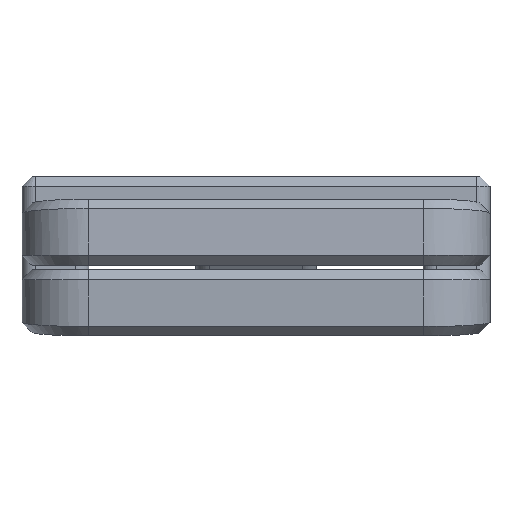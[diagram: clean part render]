
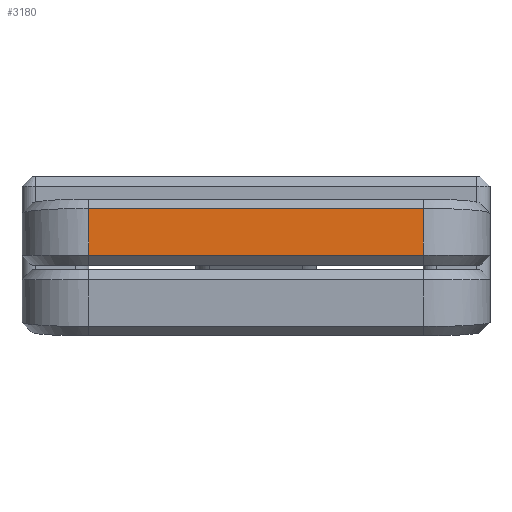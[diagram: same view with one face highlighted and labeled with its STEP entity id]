
A CAD part, front view. The second image highlights one B-rep face of the part: STEP entity #3180.
In plain terms, the highlighted planar face has unit normal (0, -0.999, 0.037).
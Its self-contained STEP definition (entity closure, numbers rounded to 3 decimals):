
#309=PLANE('',#3404);
#492=FACE_OUTER_BOUND('',#680,.T.);
#680=EDGE_LOOP('',(#2972,#2973,#2974,#2975));
#918=LINE('',#5545,#1200);
#975=LINE('',#6074,#1257);
#999=LINE('',#6219,#1281);
#1002=LINE('',#6224,#1284);
#1200=VECTOR('',#3859,10.);
#1257=VECTOR('',#3978,10.);
#1281=VECTOR('',#4046,10.);
#1284=VECTOR('',#4053,10.);
#1507=VERTEX_POINT('',#5533);
#1509=VERTEX_POINT('',#5543);
#1551=VERTEX_POINT('',#6056);
#1553=VERTEX_POINT('',#6070);
#1901=EDGE_CURVE('',#1509,#1507,#918,.T.);
#1986=EDGE_CURVE('',#1551,#1553,#975,.T.);
#2025=EDGE_CURVE('',#1507,#1551,#999,.T.);
#2028=EDGE_CURVE('',#1553,#1509,#1002,.T.);
#2972=ORIENTED_EDGE('',*,*,#1901,.F.);
#2973=ORIENTED_EDGE('',*,*,#2028,.F.);
#2974=ORIENTED_EDGE('',*,*,#1986,.F.);
#2975=ORIENTED_EDGE('',*,*,#2025,.F.);
#3180=ADVANCED_FACE('',(#492),#309,.T.);
#3404=AXIS2_PLACEMENT_3D('',#6266,#4105,#4106);
#3859=DIRECTION('',(1.,0.,0.));
#3978=DIRECTION('',(-1.,0.,0.));
#4046=DIRECTION('',(0.,-0.037,-0.999));
#4053=DIRECTION('',(0.,0.037,0.999));
#4105=DIRECTION('center_axis',(0.,-0.999,0.037));
#4106=DIRECTION('ref_axis',(0.,-0.037,-0.999));
#5533=CARTESIAN_POINT('',(12.5,-23.591,4.582));
#5543=CARTESIAN_POINT('',(-12.5,-23.591,4.582));
#5545=CARTESIAN_POINT('',(0.,-23.591,4.582));
#6056=CARTESIAN_POINT('',(12.5,-23.722,1.084));
#6070=CARTESIAN_POINT('',(-12.5,-23.722,1.084));
#6074=CARTESIAN_POINT('',(0.,-23.722,1.084));
#6219=CARTESIAN_POINT('',(12.5,-23.595,4.456));
#6224=CARTESIAN_POINT('',(-12.5,-23.595,4.456));
#6266=CARTESIAN_POINT('Origin',(0.,-23.563,5.331));
